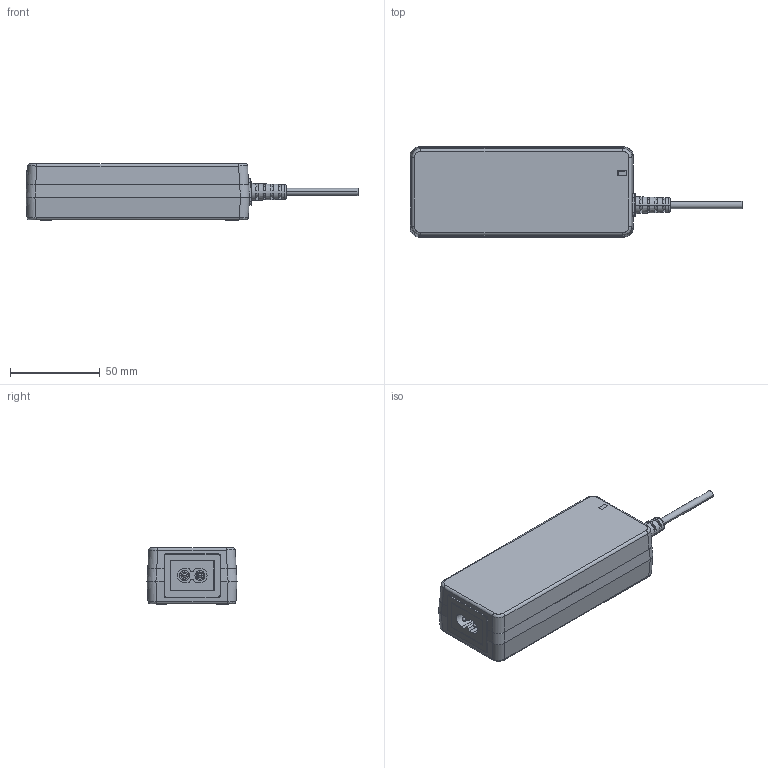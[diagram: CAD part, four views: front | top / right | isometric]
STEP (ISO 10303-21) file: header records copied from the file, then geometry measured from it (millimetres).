
FILE_DESCRIPTION(('Creo Elements/Direct Modeling STEP Export'),'2;1');
FILE_NAME('GSM60B11.stp','2020-05-12T16:43:52',(''),(''),'PTC Creo Elements/Direct Modeling STEP processor for AP214 (Solid Model)','PTC Creo Elements/Direct Modeling 19.0E 27-Jun-2016 (C) Parametric Technology GmbH','');
FILE_SCHEMA(('AUTOMOTIVE_DESIGN { 1 0 10303 214 1 1 1 1 }'));
Length unit declared in the file: millimetre
Products named in the file (13): N-BASE; N-COVER; CASE; LENS; SO-222-TC-020-BODY_5.PRT; SO222-Y0739-4020_11.PRT; GP-SO222-P12S_2.PRT; SO-222-TC-020-P12S_ASM_1.ASM; 1EE5; FF; scrw; MSBR.1.1; GSM60B
Assembly tree (14 placements, depth 4):
  GSM60B
    MSBR.1.1
    scrw
    FF
    1EE5
      SO-222-TC-020-P12S_ASM_1.ASM
        GP-SO222-P12S_2.PRT  x2
        SO222-Y0739-4020_11.PRT  x2
        SO-222-TC-020-BODY_5.PRT
    LENS
    CASE
      N-COVER
      N-BASE
Bounding box: 185.29 x 50.24 x 31.8 mm (x, y, z)
Volume: 52783.9 mm3; surface area: 53381.3 mm2
Topology: 11 solids, 11 shells, 755 faces, 1942 edges, 1263 vertices
Faces by surface type: plane 490, cylinder 216, torus 17, cone 16, sphere 8, bspline 7, extrusion 1
Entity records: 22599 total; most frequent: CARTESIAN_POINT 4658, ORIENTED_EDGE 3720, DIRECTION 3488, EDGE_CURVE 1860, VECTOR 1326, LINE 1325, VERTEX_POINT 1218, AXIS2_PLACEMENT_3D 1081
